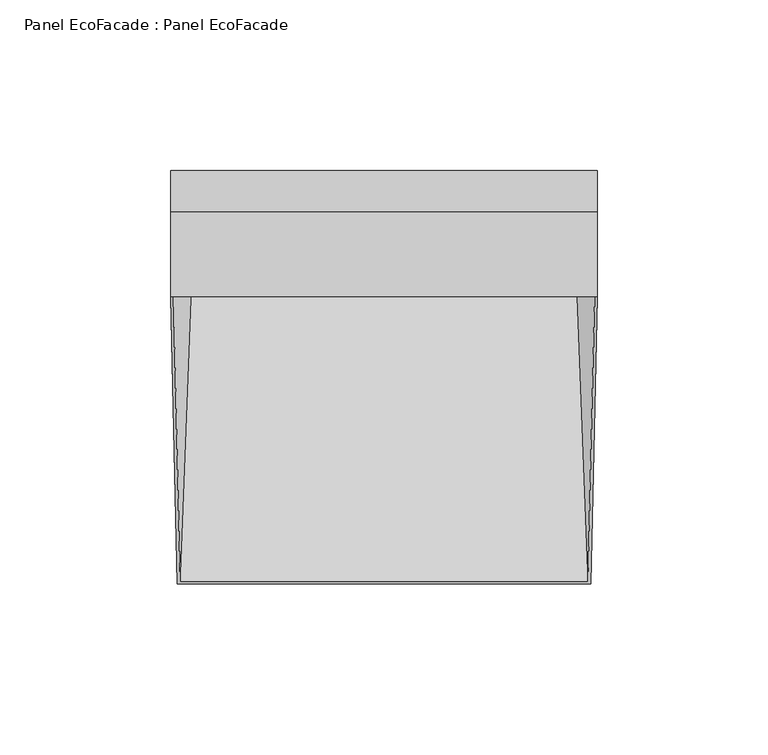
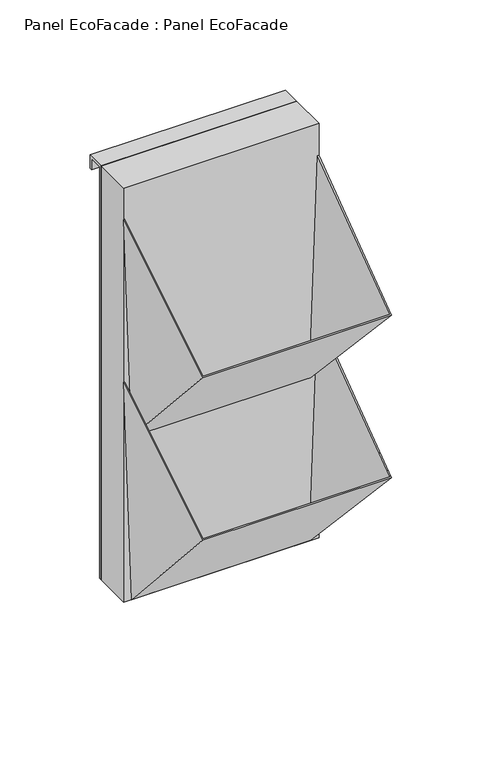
"""IFC4 building model written with IfcOpenShell, lengths in millimetres: plate geometry, Panel EcoFacade : Panel EcoFacade."""

from ifc_helpers import new_model, si_unit, frame, origin, origin_with_axes, place, context, project, spatial, polyline, outline, extrude, faceted_brep, source, transform, mapped, element, save


def panel_ecofacade_panel_ecofacade_08ac33c5(model_context):
    return source(origin(), model_context, "Body", "SolidModel", [
        faceted_brep([(-61.680785, 0.0, 258.5882353), (-56.5333837, 0.0, 111.185948), (56.5333837, 0.0, 111.185948), (61.680785, 0.0, 258.5882353), (62.4812727, 0.0, 258.5882353), (57.2924572, 0.0, 110.0), (-57.2924572, 0.0, 110.0), (-62.4812727, 0.0, 258.5882353), (-60.5102218, -84.2, 202.1447224), (-59.725466, -83.5279628, 202.5952229), (60.5102218, -84.2, 202.1447224), (59.725466, -83.5279628, 202.5952229)], [[[0, 1, 2, 3, 4, 5, 6, 7]], [[6, 8, 7]], [[1, 0, 9]], [[0, 7, 8, 10, 4, 3, 11, 9]], [[5, 10, 8, 6]], [[1, 9, 11, 2]], [[4, 10, 5]], [[3, 2, 11]]]),
        faceted_brep([(-61.680785, 0.0, 148.5882353), (-56.5333837, 0.0, 1.185948), (56.5333837, 0.0, 1.185948), (61.680785, 0.0, 148.5882353), (62.4812727, 0.0, 148.5882353), (57.2924572, 0.0, 0.0), (-57.2924572, 0.0, 0.0), (-62.4812727, 0.0, 148.5882353), (-60.5102218, -84.2, 92.1447224), (-59.725466, -83.5279628, 92.5952229), (60.5102218, -84.2, 92.1447224), (59.725466, -83.5279628, 92.5952229)], [[[0, 1, 2, 3, 4, 5, 6, 7]], [[6, 8, 7]], [[1, 0, 9]], [[0, 7, 8, 10, 4, 3, 11, 9]], [[5, 10, 8, 6]], [[1, 9, 11, 2]], [[4, 10, 5]], [[3, 2, 11]]]),
        extrude(outline(polyline([(26.5, 0.0), (25.0, 0.0), (25.0, 280.0), (37.0, 280.0), (37.0, 271.0), (35.5, 271.0), (35.5, 278.5), (26.5, 278.5), (26.5, 0.0)])), frame((-62.5, 0.0, 0.0), z_axis=(1.0, 0.0, 0.0), x_axis=(0.0, 1.0, 0.0)), (0.0, 0.0, 1.0), 125.0),
        extrude(outline(polyline([(62.5, 25.0), (62.5, 0.0), (-62.5, 0.0), (-62.5, 25.0), (62.5, 25.0)])), origin_with_axes(), (0.0, 0.0, 1.0), 280.0),
    ])


if __name__ == "__main__":
    model = new_model("IFC4")
    model_context = context("Model", 3, world=origin())
    ifc_project = project(units=[si_unit("LENGTHUNIT", "METRE", prefix="MILLI")], contexts=[model_context])
    site = spatial("IfcSite", under=ifc_project)
    building = spatial("IfcBuilding", under=site)
    placement = place(None, origin())
    panel_ecofacade_panel_ecofacade_shape = panel_ecofacade_panel_ecofacade_08ac33c5(model_context)
    element("IfcPlate", 1, ObjectType="Panel EcoFacade : Panel EcoFacade", at=placement, inside=building, context=model_context, shape_type="MappedRepresentation", body=[
        mapped(panel_ecofacade_panel_ecofacade_shape, transform((0.0, 0.0, 0.0), x_axis=(1.0, 0.0, 0.0), y_axis=(0.0, 1.0, 0.0), z_axis=(0.0, 0.0, 1.0))),
    ])
    save(model, "model.ifc")
